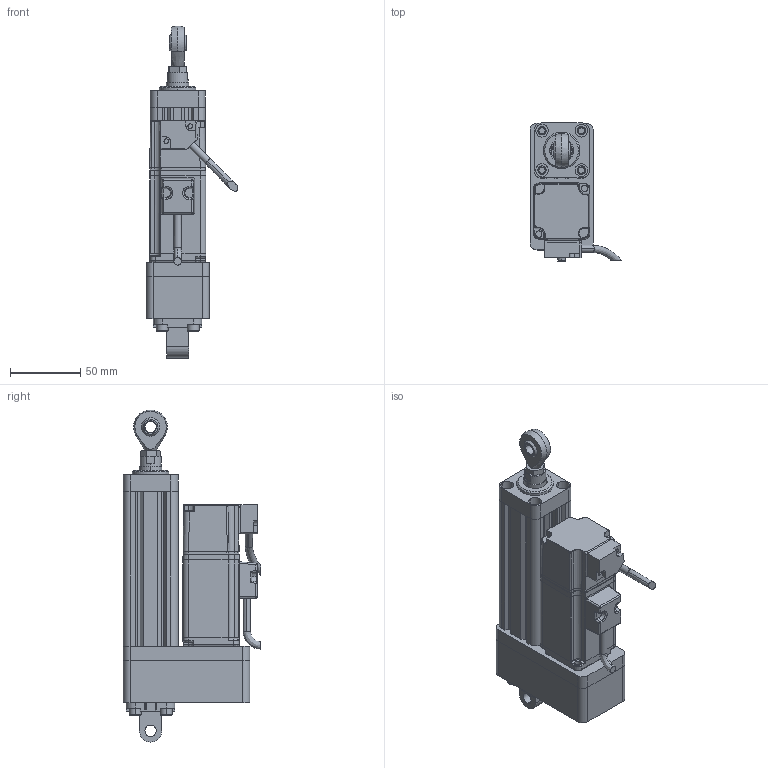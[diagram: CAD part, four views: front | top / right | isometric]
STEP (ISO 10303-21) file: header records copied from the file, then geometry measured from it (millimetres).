
FILE_DESCRIPTION (( 'STEP AP214' ), '1' );
FILE_NAME ('039-S50-D02-B-M5-C4-2.STEP', '2021-03-02T04:56:39', ( '' ), ( '' ), 'SwSTEP 2.0', 'SolidWorks 2018', '' );
FILE_SCHEMA (( 'AUTOMOTIVE_DESIGN' ));
Length unit declared in the file: millimetre
Products named in the file (10): CMC039-LJB; GB／T6174-2000六角薄螺母无倒角M8; F-ACE20CA_ACE_; CMC039-HXT; CMC039-FL; ECMA-CX0401ES-40框號系列機種-100W低慣量系列; CMC039-DT; BNC51-SA8T_K-R; CMC039-GT; 039-S50-D02-B-M5-C4-2
Assembly tree (9 placements, depth 2):
  039-S50-D02-B-M5-C4-2
    CMC039-GT
    CMC039-LJB
    CMC039-FL
    CMC039-DT
    ECMA-CX0401ES-40框號系列機種-100W低慣量系列
    CMC039-HXT
    F-ACE20CA_ACE_
    GB／T6174-2000六角薄螺母无倒角M8
    BNC51-SA8T_K-R
Bounding box: 65.34 x 97.89 x 236 mm (x, y, z)
Volume: 389714 mm3; surface area: 120007 mm2
Topology: 10 solids, 18 shells, 807 faces, 2112 edges, 1324 vertices
Faces by surface type: cylinder 327, plane 315, bspline 102, cone 63
Entity records: 32316 total; most frequent: CARTESIAN_POINT 12833, ORIENTED_EDGE 4138, DIRECTION 3501, EDGE_CURVE 2069, VERTEX_POINT 1324, AXIS2_PLACEMENT_3D 1253, LINE 995, VECTOR 995
